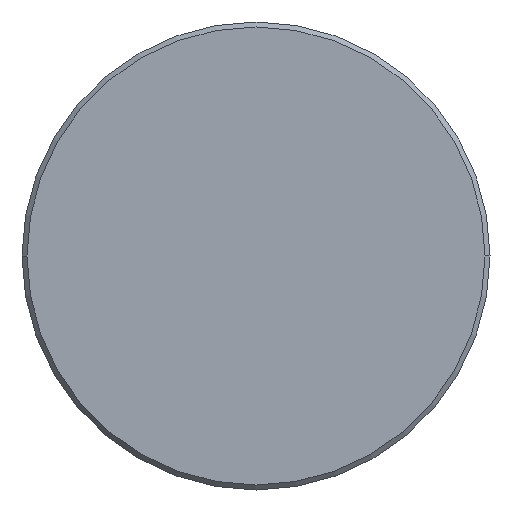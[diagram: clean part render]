
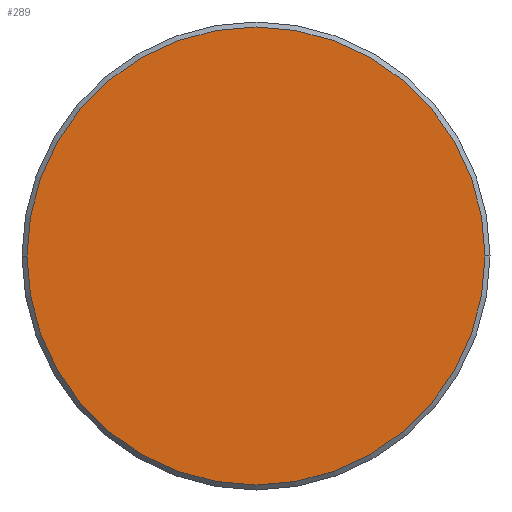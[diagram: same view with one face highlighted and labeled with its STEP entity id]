
A CAD part, left-side view. The second image highlights one B-rep face of the part: STEP entity #289.
In plain terms, the highlighted planar face has unit normal (-1, 0, 0).
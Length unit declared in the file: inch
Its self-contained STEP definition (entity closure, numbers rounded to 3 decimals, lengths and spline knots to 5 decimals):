
#5 = CARTESIAN_POINT ( 'NONE',  ( 0., -0.1835, 0. ) ) ;
#41 = DIRECTION ( 'NONE',  ( 0., -1., 0. ) ) ;
#43 = ORIENTED_EDGE ( 'NONE', *, *, #362, .T. ) ;
#44 = AXIS2_PLACEMENT_3D ( 'NONE', #318, #84, #139 ) ;
#49 = CIRCLE ( 'NONE', #130, 0.1835 ) ;
#51 = EDGE_CURVE ( 'NONE', #255, #111, #251, .T. ) ;
#63 = ORIENTED_EDGE ( 'NONE', *, *, #51, .T. ) ;
#84 = DIRECTION ( 'NONE',  ( -1., 0., 0. ) ) ;
#105 = DIRECTION ( 'NONE',  ( -1., 0., 0. ) ) ;
#111 = VERTEX_POINT ( 'NONE', #121 ) ;
#121 = CARTESIAN_POINT ( 'NONE',  ( 0., 0.1835, 0. ) ) ;
#130 = AXIS2_PLACEMENT_3D ( 'NONE', #193, #105, #41 ) ;
#139 = DIRECTION ( 'NONE',  ( 0., -1., 0. ) ) ;
#193 = CARTESIAN_POINT ( 'NONE',  ( 0., 0., 0. ) ) ;
#236 = FACE_OUTER_BOUND ( 'NONE', #319, .T. ) ;
#242 = AXIS2_PLACEMENT_3D ( 'NONE', #327, #244, #274 ) ;
#244 = DIRECTION ( 'NONE',  ( -1., 0., 0. ) ) ;
#251 = CIRCLE ( 'NONE', #44, 0.1835 ) ;
#255 = VERTEX_POINT ( 'NONE', #5 ) ;
#270 = PLANE ( 'NONE',  #242 ) ;
#274 = DIRECTION ( 'NONE',  ( 0., -1., 0. ) ) ;
#289 = ADVANCED_FACE ( 'NONE', ( #236 ), #270, .T. ) ;
#318 = CARTESIAN_POINT ( 'NONE',  ( 0., 0., 0. ) ) ;
#319 = EDGE_LOOP ( 'NONE', ( #43, #63 ) ) ;
#327 = CARTESIAN_POINT ( 'NONE',  ( 0., 0., 0. ) ) ;
#362 = EDGE_CURVE ( 'NONE', #111, #255, #49, .T. ) ;
